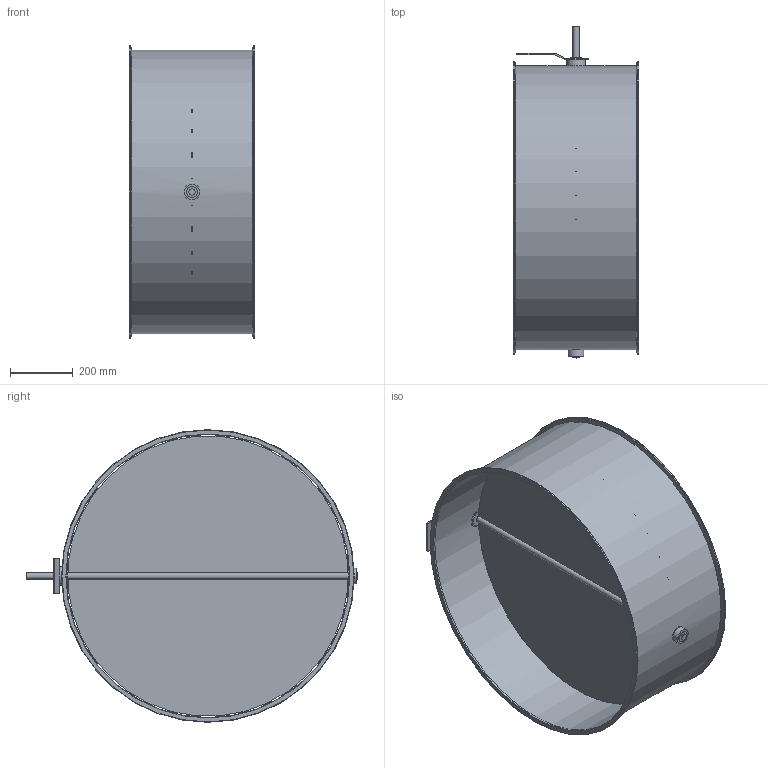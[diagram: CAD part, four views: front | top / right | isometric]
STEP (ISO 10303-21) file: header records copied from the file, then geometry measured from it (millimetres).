
FILE_DESCRIPTION(/* description */ (''),/* implementation_level */ '2;1');
FILE_NAME(/* name */ 'EA116-80B__900_L400_Belimo_Typen_NF_SF.stp',/* time_stamp */ '2017-12-06T17:12:41+01:00',/* author */ (''),/* organization */ (''),/* preprocessor_version */ 'ST-DEVELOPER v11',/* originating_system */ 'SIEMENS UGS NX 6.0',/* authorisation */ '');
FILE_SCHEMA (('CONFIG_CONTROL_DESIGN'));
Length unit declared in the file: millimetre
Products named in the file (1): gars18E2j2qn
Bounding box: 400 x 1055 x 930 mm (x, y, z)
Volume: 3208712.1 mm3; surface area: 3816439.4 mm2
Topology: 8 solids, 8 shells, 79 faces, 167 edges, 106 vertices
Faces by surface type: plane 36, cylinder 35, torus 6, cone 2
Full cylindrical faces by diameter (mm): 8.1 x7, 20 x3, 35 x3, 35.85 x2, 36 x2, 49 x1, 50 x2, 59 x1, 900 x1, 902.4 x1, 930 x2
Entity records: 2094 total; most frequent: CARTESIAN_POINT 400, DIRECTION 352, ORIENTED_EDGE 248, AXIS2_PLACEMENT_3D 152, EDGE_LOOP 144, EDGE_CURVE 124, FACE_BOUND 114, VERTEX_POINT 96
